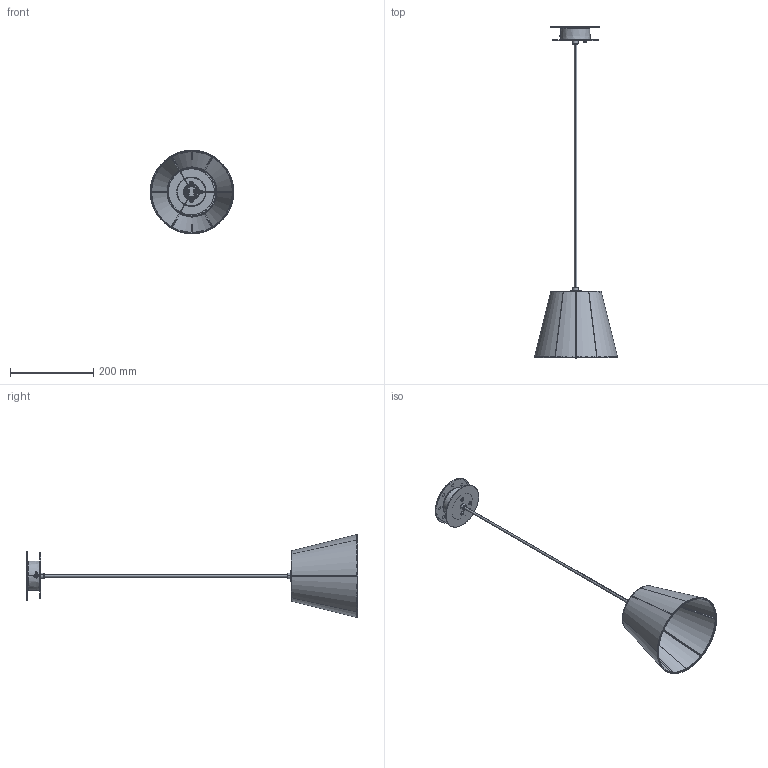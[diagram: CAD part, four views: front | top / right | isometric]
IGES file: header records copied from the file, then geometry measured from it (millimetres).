
Start section: SolidWorks IGES file using analytic representation for surfaces
Global section: file name: C:\Users\berta.gumma\OneDrive - santa &cole\Desktop\PT1 chapa adaptadora.IGS; native system: SolidWorks 2021; preprocessor: SolidWorks 2021; author: berta.gumma; date: 230907.102534; units: millimetre
Bounding box: 200 x 795.54 x 200 mm (x, y, z)
Surface area: 300716.2 mm2 (no closed solid volume)
Topology: 0 solids, 0 shells, 692 faces, 9522 edges, 9522 vertices
Faces by surface type: bspline 351, revolution 341
